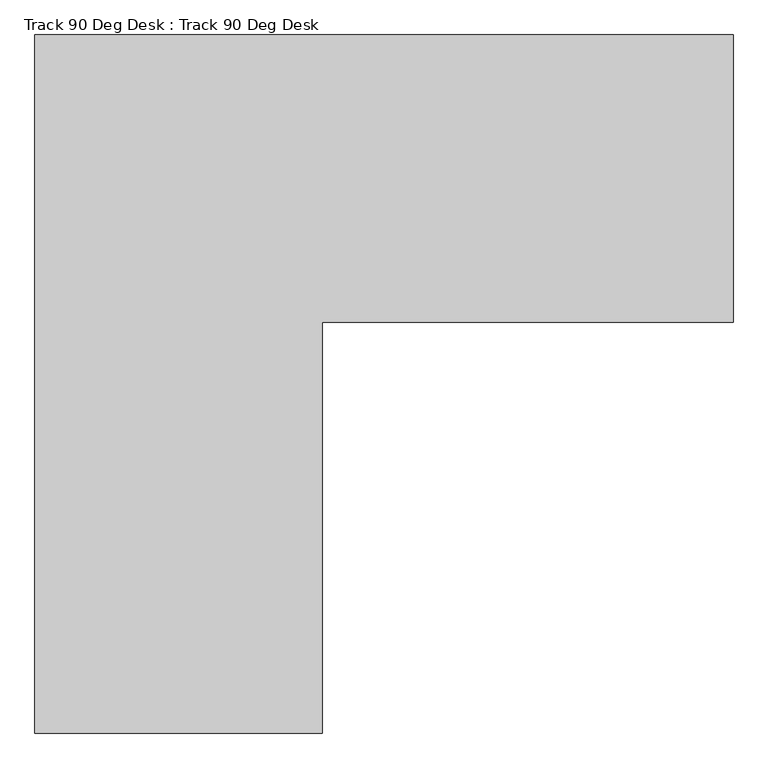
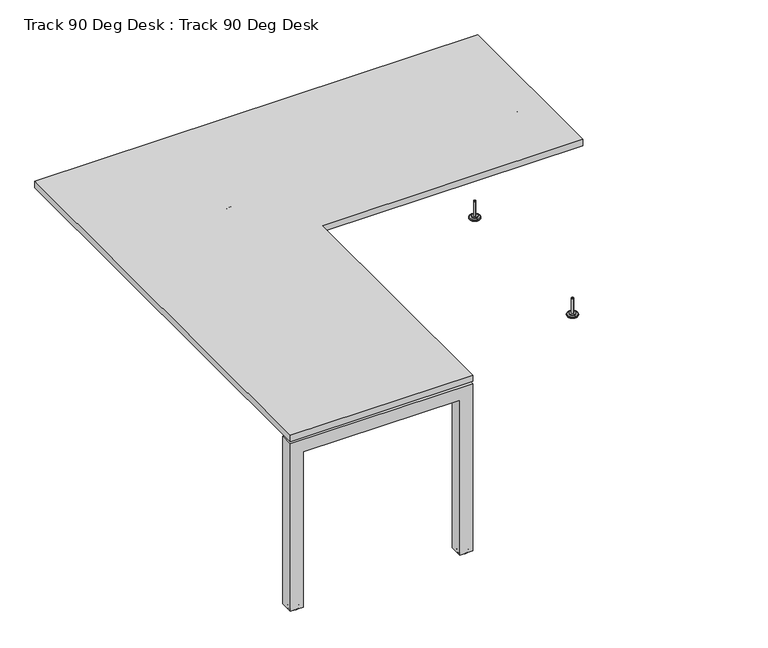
"""IFC4 building model written with IfcOpenShell, lengths in millimetres: furniture geometry, Track 90 Deg Desk : Track 90 Deg Desk."""

from ifc_helpers import new_model, si_unit, point, frame, frame_2d, origin, place, context, project, spatial, polyline, circle_curve, ellipse_curve, trimmed, segment, composite_curve, outline, extrude, source, transform, mapped, element, save
from ifc_brep_helpers import plane_surface, cylinder_surface, revolved_surface, advanced_brep


def track_90_deg_desk_track_90_deg_desk_b40ebd61(model_context):
    return source(origin(), model_context, "Body", "SolidModel", [
        advanced_brep(
        [(1675.0000009, -21.0000093, 70.0000014), (1675.0000009, -21.0000093, 10.0000005), (1675.0000009, -29.0000093, 10.0000005), (1675.0000009, -29.0000093, 70.0000014), (1675.0000009, -14.0359245, 10.0000005), (1675.0000009, -35.9640941, 10.0000005), (1675.0000009, -14.0359245, 6.0), (1675.0000009, -35.9640941, 6.0), (1675.0000009, -6.9540033, 6.0), (1675.0000009, -43.0460152, 6.0), (1675.0000009, -5.0000105, 4.0460071), (1675.0000009, -45.0000081, 4.0460071), (1675.0000009, -5.0000105, 2.0), (1675.0000009, -45.0000081, 2.0), (1675.0000009, -7.0000105, 0.0), (1675.0000009, -43.0000081, 0.0), (1675.0000009, -25.0000093, 0.0), (1675.0000009, -25.0000093, 70.0000014)],
        [
            (0, 1),
            (1, 2, circle_curve(frame((1675.0000009, -25.0000093, 10.0000005), z_axis=(0.0, 0.0, 1.0), x_axis=(0.0, -1.0, 0.0)), 4.0)),
            (2, 3),
            (3, 0, circle_curve(frame((1675.0000009, -25.0000093, 70.0000014), z_axis=(0.0, 0.0, -1.0), x_axis=(0.0, -1.0, 0.0)), 4.0)),
            (2, 1, circle_curve(frame((1675.0000009, -25.0000093, 10.0000005), z_axis=(0.0, 0.0, 1.0), x_axis=(0.0, -1.0, 0.0)), 4.0)),
            (0, 3, circle_curve(frame((1675.0000009, -25.0000093, 70.0000014), z_axis=(0.0, 0.0, -1.0), x_axis=(0.0, -1.0, 0.0)), 4.0)),
            (1, 4),
            (4, 5, circle_curve(frame((1675.0000009, -25.0000093, 10.0000005), z_axis=(0.0, 0.0, 1.0), x_axis=(0.0, -1.0, 0.0)), 10.9640848)),
            (5, 2),
            (5, 4, circle_curve(frame((1675.0000009, -25.0000093, 10.0000005), z_axis=(0.0, 0.0, 1.0), x_axis=(0.0, -1.0, 0.0)), 10.9640848)),
            (4, 6),
            (6, 7, circle_curve(frame((1675.0000009, -25.0000093, 6.0), z_axis=(0.0, 0.0, 1.0), x_axis=(0.0, -1.0, 0.0)), 10.9640848)),
            (7, 5),
            (7, 6, circle_curve(frame((1675.0000009, -25.0000093, 6.0), z_axis=(0.0, 0.0, 1.0), x_axis=(0.0, -1.0, 0.0)), 10.9640848)),
            (6, 8),
            (8, 9, circle_curve(frame((1675.0000009, -25.0000093, 6.0), z_axis=(0.0, 0.0, 1.0), x_axis=(0.0, -1.0, 0.0)), 18.0460059)),
            (9, 7),
            (9, 8, circle_curve(frame((1675.0000009, -25.0000093, 6.0), z_axis=(0.0, 0.0, 1.0), x_axis=(0.0, -1.0, 0.0)), 18.0460059)),
            (8, 10, circle_curve(frame((1675.0000009, -6.9540033, 4.0460071), z_axis=(-1.0, 0.0, 0.0), x_axis=(0.0, -1.0, 0.0)), 1.9539929)),
            (10, 11, circle_curve(frame((1675.0000009, -25.0000093, 4.0460071), z_axis=(0.0, 0.0, 1.0), x_axis=(0.0, -1.0, 0.0)), 19.9999988)),
            (11, 9, circle_curve(frame((1675.0000009, -43.0460152, 4.0460071), z_axis=(-1.0, 0.0, 0.0), x_axis=(0.0, 1.0, 0.0)), 1.9539929)),
            (11, 10, circle_curve(frame((1675.0000009, -25.0000093, 4.0460071), z_axis=(0.0, 0.0, 1.0), x_axis=(0.0, -1.0, 0.0)), 19.9999988)),
            (10, 12),
            (12, 13, circle_curve(frame((1675.0000009, -25.0000093, 2.0), z_axis=(0.0, 0.0, 1.0), x_axis=(0.0, -1.0, 0.0)), 19.9999988)),
            (13, 11),
            (13, 12, circle_curve(frame((1675.0000009, -25.0000093, 2.0), z_axis=(0.0, 0.0, 1.0), x_axis=(0.0, -1.0, 0.0)), 19.9999988)),
            (12, 14, circle_curve(frame((1675.0000009, -7.0000105, 2.0), z_axis=(-1.0, 0.0, 0.0), x_axis=(0.0, -1.0, 0.0)), 2.0)),
            (14, 15, circle_curve(frame((1675.0000009, -25.0000093, 0.0), z_axis=(0.0, 0.0, 1.0), x_axis=(0.0, -1.0, 0.0)), 17.9999988)),
            (15, 13, circle_curve(frame((1675.0000009, -43.0000081, 2.0), z_axis=(-1.0, 0.0, 0.0), x_axis=(0.0, 1.0, 0.0)), 2.0)),
            (15, 14, circle_curve(frame((1675.0000009, -25.0000093, 0.0), z_axis=(0.0, 0.0, 1.0), x_axis=(0.0, -1.0, 0.0)), 17.9999988)),
            (14, 16),
            (16, 15),
            (17, 0),
            (3, 17),
        ],
        [
            cylinder_surface(frame((1675.0000009, -25.0000093, 70.0000014), z_axis=(0.0, 0.0, 1.0), x_axis=(0.0, -1.0, 0.0)), 4.0),
            plane_surface(frame((1675.0000009, -25.0000093, 10.0000005), z_axis=(0.0, 0.0, 1.0), x_axis=(0.0, -1.0, 0.0))),
            cylinder_surface(frame((1675.0000009, -25.0000093, 70.0000014), z_axis=(0.0, 0.0, 1.0), x_axis=(0.0, -1.0, 0.0)), 10.9640848),
            plane_surface(frame((1675.0000009, -25.0000093, 6.0), z_axis=(0.0, 0.0, 1.0), x_axis=(0.0, -1.0, 0.0))),
            revolved_surface(trimmed(ellipse_curve(frame((1675.0000009, -43.0460152, 4.0460071), z_axis=(-1.0, 0.0, 0.0), x_axis=(0.0, 1.0, 0.0)), 1.9539929, 1.9539929), [point((1675.0000009, -45.0000081, 4.0460071))], [point((1675.0000009, -43.0460152, 6.0))], True, "CARTESIAN"), (1675.0000009, -25.0000093, 70.0000014), (0.0, 0.0, 1.0)),
            cylinder_surface(frame((1675.0000009, -25.0000093, 70.0000014), z_axis=(0.0, 0.0, 1.0), x_axis=(0.0, -1.0, 0.0)), 19.9999988),
            revolved_surface(trimmed(ellipse_curve(frame((1675.0000009, -43.0000081, 2.0), z_axis=(-1.0, 0.0, 0.0), x_axis=(0.0, 1.0, 0.0)), 2.0, 2.0), [point((1675.0000009, -43.0000081, 0.0))], [point((1675.0000009, -45.0000081, 2.0))], True, "CARTESIAN"), (1675.0000009, -25.0000093, 70.0000014), (0.0, 0.0, 1.0)),
            plane_surface(frame((1675.0000009, -25.0000093, 0.0), z_axis=(0.0, 0.0, -1.0), x_axis=(0.0, -1.0, 0.0))),
            plane_surface(frame((1675.0000009, -25.0000093, 70.0000014), z_axis=(0.0, 0.0, 1.0), x_axis=(0.0, -1.0, 0.0))),
        ],
        [
            (0, [[1, 2, 3, 4]]),
            (0, [[-3, 5, -1, 6]]),
            (1, [[7, 8, 9, -2]]),
            (1, [[-9, 10, -7, -5]]),
            (2, [[11, 12, 13, -8]]),
            (2, [[-13, 14, -11, -10]]),
            (3, [[15, 16, 17, -12]]),
            (3, [[-17, 18, -15, -14]]),
            (4, [[19, 20, 21, -16]]),
            (4, [[-21, 22, -19, -18]]),
            (5, [[23, 24, 25, -20]]),
            (5, [[-25, 26, -23, -22]]),
            (6, [[27, 28, 29, -24]]),
            (6, [[-29, 30, -27, -26]]),
            (7, [[31, 32, -28]]),
            (7, [[-32, -31, -30]]),
            (8, [[33, -4, 34]]),
            (8, [[-34, -6, -33]]),
        ],
    ),
        advanced_brep(
        [(1675.0000009, -678.9999907, 10.0000005), (1675.0000009, -678.9999907, 70.0000014), (1675.0000009, -670.9999907, 70.0000014), (1675.0000009, -670.9999907, 10.0000005), (1675.0000009, -685.9640755, 10.0000005), (1675.0000009, -664.0359059, 10.0000005), (1675.0000009, -685.9640755, 6.0), (1675.0000009, -664.0359059, 6.0), (1675.0000009, -693.0459967, 6.0), (1675.0000009, -656.9539848, 6.0), (1675.0000009, -694.9999895, 4.0460071), (1675.0000009, -654.9999919, 4.0460071), (1675.0000009, -694.9999895, 2.0), (1675.0000009, -654.9999919, 2.0), (1675.0000009, -692.9999895, 0.0), (1675.0000009, -656.9999919, 0.0), (1675.0000009, -674.9999907, 0.0), (1675.0000009, -674.9999907, 70.0000014)],
        [
            (0, 1),
            (1, 2, circle_curve(frame((1675.0000009, -674.9999907, 70.0000014), z_axis=(0.0, 0.0, -1.0), x_axis=(0.0, 1.0, 0.0)), 4.0)),
            (2, 3),
            (3, 0, circle_curve(frame((1675.0000009, -674.9999907, 10.0000005), z_axis=(0.0, 0.0, 1.0), x_axis=(0.0, 1.0, 0.0)), 4.0)),
            (2, 1, circle_curve(frame((1675.0000009, -674.9999907, 70.0000014), z_axis=(0.0, 0.0, -1.0), x_axis=(0.0, 1.0, 0.0)), 4.0)),
            (0, 3, circle_curve(frame((1675.0000009, -674.9999907, 10.0000005), z_axis=(0.0, 0.0, 1.0), x_axis=(0.0, 1.0, 0.0)), 4.0)),
            (4, 0),
            (3, 5),
            (5, 4, circle_curve(frame((1675.0000009, -674.9999907, 10.0000005), z_axis=(0.0, 0.0, 1.0), x_axis=(0.0, 1.0, 0.0)), 10.9640848)),
            (4, 5, circle_curve(frame((1675.0000009, -674.9999907, 10.0000005), z_axis=(0.0, 0.0, 1.0), x_axis=(0.0, 1.0, 0.0)), 10.9640848)),
            (6, 4),
            (5, 7),
            (7, 6, circle_curve(frame((1675.0000009, -674.9999907, 6.0), z_axis=(0.0, 0.0, 1.0), x_axis=(0.0, 1.0, 0.0)), 10.9640848)),
            (6, 7, circle_curve(frame((1675.0000009, -674.9999907, 6.0), z_axis=(0.0, 0.0, 1.0), x_axis=(0.0, 1.0, 0.0)), 10.9640848)),
            (8, 6),
            (7, 9),
            (9, 8, circle_curve(frame((1675.0000009, -674.9999907, 6.0), z_axis=(0.0, 0.0, 1.0), x_axis=(0.0, 1.0, 0.0)), 18.0460059)),
            (8, 9, circle_curve(frame((1675.0000009, -674.9999907, 6.0), z_axis=(0.0, 0.0, 1.0), x_axis=(0.0, 1.0, 0.0)), 18.0460059)),
            (10, 8, circle_curve(frame((1675.0000009, -693.0459967, 4.0460071), z_axis=(-1.0, 0.0, 0.0), x_axis=(0.0, 1.0, 0.0)), 1.9539929)),
            (9, 11, circle_curve(frame((1675.0000009, -656.9539848, 4.0460071), z_axis=(-1.0, 0.0, 0.0), x_axis=(0.0, -1.0, 0.0)), 1.9539929)),
            (11, 10, circle_curve(frame((1675.0000009, -674.9999907, 4.0460071), z_axis=(0.0, 0.0, 1.0), x_axis=(0.0, 1.0, 0.0)), 19.9999988)),
            (10, 11, circle_curve(frame((1675.0000009, -674.9999907, 4.0460071), z_axis=(0.0, 0.0, 1.0), x_axis=(0.0, 1.0, 0.0)), 19.9999988)),
            (12, 10),
            (11, 13),
            (13, 12, circle_curve(frame((1675.0000009, -674.9999907, 2.0), z_axis=(0.0, 0.0, 1.0), x_axis=(0.0, 1.0, 0.0)), 19.9999988)),
            (12, 13, circle_curve(frame((1675.0000009, -674.9999907, 2.0), z_axis=(0.0, 0.0, 1.0), x_axis=(0.0, 1.0, 0.0)), 19.9999988)),
            (14, 12, circle_curve(frame((1675.0000009, -692.9999895, 2.0), z_axis=(-1.0, 0.0, 0.0), x_axis=(0.0, 1.0, 0.0)), 2.0)),
            (13, 15, circle_curve(frame((1675.0000009, -656.9999919, 2.0), z_axis=(-1.0, 0.0, 0.0), x_axis=(0.0, -1.0, 0.0)), 2.0)),
            (15, 14, circle_curve(frame((1675.0000009, -674.9999907, 0.0), z_axis=(0.0, 0.0, 1.0), x_axis=(0.0, 1.0, 0.0)), 17.9999988)),
            (14, 15, circle_curve(frame((1675.0000009, -674.9999907, 0.0), z_axis=(0.0, 0.0, 1.0), x_axis=(0.0, 1.0, 0.0)), 17.9999988)),
            (16, 14),
            (15, 16),
            (1, 17),
            (17, 2),
        ],
        [
            cylinder_surface(frame((1675.0000009, -674.9999907, 70.0000014), z_axis=(0.0, 0.0, -1.0), x_axis=(0.0, 1.0, 0.0)), 4.0),
            plane_surface(frame((1675.0000009, -674.9999907, 10.0000005), z_axis=(0.0, 0.0, 1.0), x_axis=(0.0, 1.0, 0.0))),
            cylinder_surface(frame((1675.0000009, -674.9999907, 70.0000014), z_axis=(0.0, 0.0, -1.0), x_axis=(0.0, 1.0, 0.0)), 10.9640848),
            plane_surface(frame((1675.0000009, -674.9999907, 6.0), z_axis=(0.0, 0.0, 1.0), x_axis=(0.0, 1.0, 0.0))),
            revolved_surface(trimmed(ellipse_curve(frame((1675.0000009, -656.9539848, 4.0460071), z_axis=(-1.0, 0.0, 0.0), x_axis=(0.0, -1.0, 0.0)), 1.9539929, 1.9539929), [point((1675.0000009, -656.9539848, 6.0))], [point((1675.0000009, -654.9999919, 4.0460071))], True, "CARTESIAN"), (1675.0000009, -674.9999907, 70.0000014), (0.0, 0.0, -1.0)),
            cylinder_surface(frame((1675.0000009, -674.9999907, 70.0000014), z_axis=(0.0, 0.0, -1.0), x_axis=(0.0, 1.0, 0.0)), 19.9999988),
            revolved_surface(trimmed(ellipse_curve(frame((1675.0000009, -656.9999919, 2.0), z_axis=(-1.0, 0.0, 0.0), x_axis=(0.0, -1.0, 0.0)), 2.0, 2.0), [point((1675.0000009, -654.9999919, 2.0))], [point((1675.0000009, -656.9999919, 0.0))], True, "CARTESIAN"), (1675.0000009, -674.9999907, 70.0000014), (0.0, 0.0, -1.0)),
            plane_surface(frame((1675.0000009, -674.9999907, 0.0), z_axis=(0.0, 0.0, -1.0), x_axis=(0.0, 1.0, 0.0))),
            plane_surface(frame((1675.0000009, -674.9999907, 70.0000014), z_axis=(0.0, 0.0, 1.0), x_axis=(0.0, 1.0, 0.0))),
        ],
        [
            (0, [[1, 2, 3, 4]]),
            (0, [[-3, 5, -1, 6]]),
            (1, [[7, -4, 8, 9]]),
            (1, [[-8, -6, -7, 10]]),
            (2, [[11, -9, 12, 13]]),
            (2, [[-12, -10, -11, 14]]),
            (3, [[15, -13, 16, 17]]),
            (3, [[-16, -14, -15, 18]]),
            (4, [[19, -17, 20, 21]]),
            (4, [[-20, -18, -19, 22]]),
            (5, [[23, -21, 24, 25]]),
            (5, [[-24, -22, -23, 26]]),
            (6, [[27, -25, 28, 29]]),
            (6, [[-28, -26, -27, 30]]),
            (7, [[31, -29, 32]]),
            (7, [[-32, -30, -31]]),
            (8, [[33, 34, -2]]),
            (8, [[-34, -33, -5]]),
        ],
    ),
        extrude(outline(polyline([(687.4999489, 1650.8242135), (694.9999998, 1642.8242158), (694.9999998, 1641.9957871), (692.9999765, 1641.9957871), (685.4999983, 1649.9957848), (685.4999983, 1650.8242135), (687.4999489, 1650.8242135)])), frame((0.0, -574.9999809, 0.0), z_axis=(0.0, 1.0, 0.0), x_axis=(0.0, 0.0, 1.0)), (0.0, 0.0, 1.0), 50.0000004),
        extrude(outline(polyline([(1624.9999994, -574.9999809), (1624.9999994, -524.9999805), (1641.9957871, -524.9999805), (1641.9957871, -574.9999809), (1624.9999994, -574.9999809)]), holes=[composite_curve([segment(trimmed(circle_curve(frame_2d((1635.0000022, -564.9999735)), 2.4999928), [point((1637.499995, -564.9999735))], [point((1632.5000095, -564.9999735))], True, "CARTESIAN"), True, "CONTINUOUS"), segment(trimmed(circle_curve(frame_2d((1635.0000022, -564.9999735)), 2.4999928), [point((1632.5000095, -564.9999735))], [point((1637.499995, -564.9999735))], True, "CARTESIAN"), True, "CONTINUOUS")], self_intersect=False), composite_curve([segment(trimmed(circle_curve(frame_2d((1635.0000022, -534.9999878)), 2.4999928), [point((1637.499995, -534.9999878))], [point((1632.5000095, -534.9999878))], True, "CARTESIAN"), True, "CONTINUOUS"), segment(trimmed(circle_curve(frame_2d((1635.0000022, -534.9999878)), 2.4999928), [point((1632.5000095, -534.9999878))], [point((1637.499995, -534.9999878))], True, "CARTESIAN"), True, "CONTINUOUS")], self_intersect=False)]), frame((0.0, 0.0, 692.9999765), z_axis=(0.0, 0.0, 1.0), x_axis=(1.0, 0.0, 0.0)), (0.0, 0.0, 1.0), 2.0000233),
        extrude(outline(polyline([(1650.8242135, -574.9999809), (1650.8242135, -524.9999805), (1674.9999998, -524.9999805), (1674.9999998, -574.9999809), (1650.8242135, -574.9999809)]), holes=[composite_curve([segment(trimmed(circle_curve(frame_2d((1661.5000017, -549.9999807)), 2.9999986), [point((1664.5000003, -549.9999807))], [point((1658.5000031, -549.9999807))], True, "CARTESIAN"), True, "CONTINUOUS"), segment(trimmed(circle_curve(frame_2d((1661.5000017, -549.9999807)), 2.9999986), [point((1658.5000031, -549.9999807))], [point((1664.5000003, -549.9999807))], True, "CARTESIAN"), True, "CONTINUOUS")], self_intersect=False)]), frame((0.0, 0.0, 685.4999983), z_axis=(0.0, 0.0, 1.0), x_axis=(1.0, 0.0, 0.0)), (0.0, 0.0, 1.0), 1.9999506),
        extrude(outline(composite_curve([segment(polyline([(427.9667757, -327.4375236), (530.031154, -327.4375236)]), True, "CONTINUOUS"), segment(trimmed(circle_curve(frame_2d((530.031154, -328.9063713)), 1.4688476), [point((530.031154, -327.4375236))], [point((531.5000017, -328.9063713))], False, "CARTESIAN"), True, "CONTINUOUS"), segment(polyline([(531.5000017, -328.9063713), (531.5000017, -337.4374946), (426.4999972, -337.4374946), (426.4999972, -328.9043021)]), True, "CONTINUOUS"), segment(trimmed(circle_curve(frame_2d((427.9667757, -328.9043021)), 1.4667785), [point((426.4999972, -328.9043021))], [point((427.9667757, -327.4375236))], False, "CARTESIAN"), True, "CONTINUOUS")], self_intersect=False), holes=[composite_curve([segment(trimmed(circle_curve(frame_2d((453.9999993, -332.4375091)), 2.5000018), [point((451.4999974, -332.4375091))], [point((456.5000011, -332.4375091))], True, "CARTESIAN"), True, "CONTINUOUS"), segment(trimmed(circle_curve(frame_2d((453.9999993, -332.4375091)), 2.5000018), [point((456.5000011, -332.4375091))], [point((451.4999974, -332.4375091))], True, "CARTESIAN"), True, "CONTINUOUS")], self_intersect=False), composite_curve([segment(trimmed(circle_curve(frame_2d((503.9999996, -332.4375091)), 2.5000018), [point((501.4999978, -332.4375091))], [point((506.5000015, -332.4375091))], True, "CARTESIAN"), True, "CONTINUOUS"), segment(trimmed(circle_curve(frame_2d((503.9999996, -332.4375091)), 2.5000018), [point((506.5000015, -332.4375091))], [point((501.4999978, -332.4375091))], True, "CARTESIAN"), True, "CONTINUOUS")], self_intersect=False)]), frame((0.0, 0.0, 692.5000071), z_axis=(0.0, 0.0, 1.0), x_axis=(1.0, 0.0, 0.0)), (0.0, 0.0, 1.0), 2.4999928),
        extrude(outline(composite_curve([segment(trimmed(circle_curve(frame_2d((427.9667757, -371.0956797)), 1.4667785), [point((427.9667757, -372.5624582))], [point((426.4999972, -371.0956797))], False, "CARTESIAN"), True, "CONTINUOUS"), segment(polyline([(426.4999972, -371.0956797), (426.4999972, -362.5624872), (531.5000017, -362.5624872), (531.5000017, -371.0936106)]), True, "CONTINUOUS"), segment(trimmed(circle_curve(frame_2d((530.031154, -371.0936106)), 1.4688476), [point((531.5000017, -371.0936106))], [point((530.031154, -372.5624582))], False, "CARTESIAN"), True, "CONTINUOUS"), segment(polyline([(530.031154, -372.5624582), (427.9667757, -372.5624582)]), True, "CONTINUOUS")], self_intersect=False), holes=[composite_curve([segment(trimmed(circle_curve(frame_2d((453.9999993, -367.5624727)), 2.5000018), [point((451.4999974, -367.5624727))], [point((456.5000011, -367.5624727))], True, "CARTESIAN"), True, "CONTINUOUS"), segment(trimmed(circle_curve(frame_2d((453.9999993, -367.5624727)), 2.5000018), [point((456.5000011, -367.5624727))], [point((451.4999974, -367.5624727))], True, "CARTESIAN"), True, "CONTINUOUS")], self_intersect=False), composite_curve([segment(trimmed(circle_curve(frame_2d((503.9999996, -367.5624727)), 2.5000018), [point((501.4999978, -367.5624727))], [point((506.5000015, -367.5624727))], True, "CARTESIAN"), True, "CONTINUOUS"), segment(trimmed(circle_curve(frame_2d((503.9999996, -367.5624727)), 2.5000018), [point((506.5000015, -367.5624727))], [point((501.4999978, -367.5624727))], True, "CARTESIAN"), True, "CONTINUOUS")], self_intersect=False)]), frame((0.0, 0.0, 692.5000071), z_axis=(0.0, 0.0, 1.0), x_axis=(1.0, 0.0, 0.0)), (0.0, 0.0, 1.0), 2.4999928),
        extrude(outline(composite_curve([segment(polyline([(-337.4374946, 644.9999994), (-337.4374946, 645.9999994), (-336.174127, 645.9999994), (-336.174127, 644.2418639)]), True, "CONTINUOUS"), segment(trimmed(circle_curve(frame_2d((-336.674127, 644.2418639)), 0.5), [point((-336.174127, 644.2418639))], [point((-336.674127, 643.7418639))], False, "CARTESIAN"), True, "CONTINUOUS"), segment(polyline([(-336.674127, 643.7418639), (-363.32506, 643.7418639)]), True, "CONTINUOUS"), segment(trimmed(circle_curve(frame_2d((-363.32506, 644.2426588)), 0.5007949), [point((-363.32506, 643.7418639))], [point((-363.8258548, 644.2426588))], False, "CARTESIAN"), True, "CONTINUOUS"), segment(polyline([(-363.8258548, 644.2426588), (-363.8258548, 645.9999994), (-362.5624872, 645.9999994), (-362.5624872, 644.9999994), (-337.4374946, 644.9999994)]), True, "CONTINUOUS")], self_intersect=False)), frame((428.9999991, 0.0, 0.0), z_axis=(1.0, 0.0, 0.0), x_axis=(0.0, 1.0, 0.0)), (0.0, 0.0, 1.0), 102.5000026),
        extrude(outline(polyline([(645.9999994, 531.5000017), (692.5000071, 531.5000017), (692.5000071, 426.4999972), (687.999991, 426.4999972), (687.999991, 428.9999991), (645.9999994, 428.9999991), (645.9999994, 531.5000017)]), holes=[composite_curve([segment(trimmed(circle_curve(frame_2d((668.1207902, 446.4999938)), 2.9999986), [point((668.1207902, 443.4999952))], [point((668.1207902, 449.4999923))], True, "CARTESIAN"), True, "CONTINUOUS"), segment(trimmed(circle_curve(frame_2d((668.1207902, 446.4999938)), 2.9999986), [point((668.1207902, 449.4999923))], [point((668.1207902, 443.4999952))], True, "CARTESIAN"), True, "CONTINUOUS")], self_intersect=False), composite_curve([segment(trimmed(circle_curve(frame_2d((668.1207902, 472.4940813)), 2.9999986), [point((668.1207902, 469.4940827))], [point((668.1207902, 475.4940798))], True, "CARTESIAN"), True, "CONTINUOUS"), segment(trimmed(circle_curve(frame_2d((668.1207902, 472.4940813)), 2.9999986), [point((668.1207902, 475.4940798))], [point((668.1207902, 469.4940827))], True, "CARTESIAN"), True, "CONTINUOUS")], self_intersect=False), composite_curve([segment(trimmed(circle_curve(frame_2d((668.1207902, 498.4881688)), 2.9999986), [point((668.1207902, 501.4881674))], [point((668.1207902, 495.4881702))], True, "CARTESIAN"), True, "CONTINUOUS"), segment(trimmed(circle_curve(frame_2d((668.1207902, 498.4881688)), 2.9999986), [point((668.1207902, 495.4881702))], [point((668.1207902, 501.4881674))], True, "CARTESIAN"), True, "CONTINUOUS")], self_intersect=False), composite_curve([segment(trimmed(circle_curve(frame_2d((668.1207902, 524.4822563)), 2.9999986), [point((668.1207902, 527.4822549))], [point((668.1207902, 521.4822577))], True, "CARTESIAN"), True, "CONTINUOUS"), segment(trimmed(circle_curve(frame_2d((668.1207902, 524.4822563)), 2.9999986), [point((668.1207902, 521.4822577))], [point((668.1207902, 527.4822549))], True, "CARTESIAN"), True, "CONTINUOUS")], self_intersect=False)]), frame((0.0, -337.4374946, 0.0), z_axis=(0.0, 1.0, 0.0), x_axis=(0.0, 0.0, 1.0)), (0.0, 0.0, 1.0), 1.2633677),
        extrude(outline(composite_curve([segment(polyline([(408.5175067, -324.9999544), (426.4999972, -324.9999544), (426.4999972, -374.9999548), (408.5285826, -374.9999548)]), True, "CONTINUOUS"), segment(trimmed(circle_curve(frame_2d((408.5285826, -372.9713684)), 2.0285864), [point((408.5285826, -374.9999548))], [point((406.4999962, -372.9713684))], False, "CARTESIAN"), True, "CONTINUOUS"), segment(polyline([(406.4999962, -372.9713684), (406.4999962, -327.0174649)]), True, "CONTINUOUS"), segment(trimmed(circle_curve(frame_2d((408.5175067, -327.0174649)), 2.0175105), [point((406.4999962, -327.0174649))], [point((408.5175067, -324.9999544))], False, "CARTESIAN"), True, "CONTINUOUS")], self_intersect=False), holes=[composite_curve([segment(trimmed(circle_curve(frame_2d((414.9999951, -349.9999546)), 3.2500196), [point((411.7499755, -349.9999546))], [point((418.2500148, -349.9999546))], True, "CARTESIAN"), True, "CONTINUOUS"), segment(trimmed(circle_curve(frame_2d((414.9999951, -349.9999546)), 3.2500196), [point((418.2500148, -349.9999546))], [point((411.7499755, -349.9999546))], True, "CARTESIAN"), True, "CONTINUOUS")], self_intersect=False)]), frame((0.0, 0.0, 633.0000051), z_axis=(0.0, 0.0, 1.0), x_axis=(1.0, 0.0, 0.0)), (0.0, 0.0, 1.0), 2.4999928),
        extrude(outline(composite_curve([segment(polyline([(408.5175067, -324.9999544), (426.4999972, -324.9999544), (426.4999972, -374.9999548), (408.5285826, -374.9999548)]), True, "CONTINUOUS"), segment(trimmed(circle_curve(frame_2d((408.5285826, -372.9713684)), 2.0285864), [point((408.5285826, -374.9999548))], [point((406.4999962, -372.9713684))], False, "CARTESIAN"), True, "CONTINUOUS"), segment(polyline([(406.4999962, -372.9713684), (406.4999962, -327.0174649)]), True, "CONTINUOUS"), segment(trimmed(circle_curve(frame_2d((408.5175067, -327.0174649)), 2.0175105), [point((406.4999962, -327.0174649))], [point((408.5175067, -324.9999544))], False, "CARTESIAN"), True, "CONTINUOUS")], self_intersect=False), holes=[composite_curve([segment(trimmed(circle_curve(frame_2d((414.9999951, -349.9999546)), 3.2500196), [point((411.7499755, -349.9999546))], [point((418.2500148, -349.9999546))], True, "CARTESIAN"), True, "CONTINUOUS"), segment(trimmed(circle_curve(frame_2d((414.9999951, -349.9999546)), 3.2500196), [point((418.2500148, -349.9999546))], [point((411.7499755, -349.9999546))], True, "CARTESIAN"), True, "CONTINUOUS")], self_intersect=False)]), frame((0.0, 0.0, 685.4999983), z_axis=(0.0, 0.0, 1.0), x_axis=(1.0, 0.0, 0.0)), (0.0, 0.0, 1.0), 2.4999928),
        extrude(outline(composite_curve([segment(polyline([(687.999991, 426.4999972), (633.0000051, 426.4999972), (633.0000051, 428.4585698)]), True, "CONTINUOUS"), segment(trimmed(circle_curve(frame_2d((633.5414345, 428.4585698)), 0.5414293), [point((633.0000051, 428.4585698))], [point((633.5414345, 428.9999991))], False, "CARTESIAN"), True, "CONTINUOUS"), segment(polyline([(633.5414345, 428.9999991), (687.499991, 428.9999991)]), True, "CONTINUOUS"), segment(trimmed(circle_curve(frame_2d((687.499991, 428.4999991)), 0.5), [point((687.499991, 428.9999991))], [point((687.999991, 428.4999991))], False, "CARTESIAN"), True, "CONTINUOUS"), segment(polyline([(687.999991, 428.4999991), (687.999991, 426.4999972)]), True, "CONTINUOUS")], self_intersect=False)), frame((0.0, -374.9999548, 0.0), z_axis=(0.0, 1.0, 0.0), x_axis=(0.0, 0.0, 1.0)), (0.0, 0.0, 1.0), 50.0000004),
        extrude(outline(polyline([(645.9999994, 531.5000017), (692.5000071, 531.5000017), (692.5000071, 426.4999972), (687.999991, 426.4999972), (687.999991, 428.9999991), (645.9999994, 428.9999991), (645.9999994, 531.5000017)]), holes=[composite_curve([segment(trimmed(circle_curve(frame_2d((668.1207902, 446.4999938)), 2.9999986), [point((668.1207902, 443.4999952))], [point((668.1207902, 449.4999923))], True, "CARTESIAN"), True, "CONTINUOUS"), segment(trimmed(circle_curve(frame_2d((668.1207902, 446.4999938)), 2.9999986), [point((668.1207902, 449.4999923))], [point((668.1207902, 443.4999952))], True, "CARTESIAN"), True, "CONTINUOUS")], self_intersect=False), composite_curve([segment(trimmed(circle_curve(frame_2d((668.1207902, 472.4940813)), 2.9999986), [point((668.1207902, 469.4940827))], [point((668.1207902, 475.4940798))], True, "CARTESIAN"), True, "CONTINUOUS"), segment(trimmed(circle_curve(frame_2d((668.1207902, 472.4940813)), 2.9999986), [point((668.1207902, 475.4940798))], [point((668.1207902, 469.4940827))], True, "CARTESIAN"), True, "CONTINUOUS")], self_intersect=False), composite_curve([segment(trimmed(circle_curve(frame_2d((668.1207902, 498.4881688)), 2.9999986), [point((668.1207902, 501.4881674))], [point((668.1207902, 495.4881702))], True, "CARTESIAN"), True, "CONTINUOUS"), segment(trimmed(circle_curve(frame_2d((668.1207902, 498.4881688)), 2.9999986), [point((668.1207902, 495.4881702))], [point((668.1207902, 501.4881674))], True, "CARTESIAN"), True, "CONTINUOUS")], self_intersect=False), composite_curve([segment(trimmed(circle_curve(frame_2d((668.1207902, 524.4822563)), 2.9999986), [point((668.1207902, 527.4822549))], [point((668.1207902, 521.4822577))], True, "CARTESIAN"), True, "CONTINUOUS"), segment(trimmed(circle_curve(frame_2d((668.1207902, 524.4822563)), 2.9999986), [point((668.1207902, 521.4822577))], [point((668.1207902, 527.4822549))], True, "CARTESIAN"), True, "CONTINUOUS")], self_intersect=False)]), frame((0.0, -363.8258548, 0.0), z_axis=(0.0, 1.0, 0.0), x_axis=(0.0, 0.0, 1.0)), (0.0, 0.0, 1.0), 1.2633677),
        advanced_brep(
        [(50.0000004, -1700.0, 5.4999998), (0.0, -1700.0, 5.4999998), (0.0, -1649.9999996, 5.4999998), (50.0000004, -1649.9999996, 5.4999998), (48.0000498, -1698.0, 5.4999998), (48.0000498, -1652.0000002, 5.4999998), (2.0000233, -1652.0000002, 5.4999998), (2.0000233, -1698.0, 5.4999998), (649.9999996, -1700.0, 5.4999998), (649.9999996, -1649.9999996, 5.4999998), (700.0, -1649.9999996, 5.4999998), (700.0, -1700.0, 5.4999998), (651.9999502, -1698.0, 5.4999998), (697.9999767, -1698.0, 5.4999998), (697.9999767, -1652.0000002, 5.4999998), (651.9999502, -1652.0000002, 5.4999998), (50.0000004, -1700.0, 635.4999996), (649.9999996, -1700.0, 635.4999996), (700.0, -1700.0, 685.5), (0.0, -1700.0, 685.5), (0.0, -1649.9999996, 685.5), (700.0, -1649.9999996, 685.5), (649.9999996, -1649.9999996, 635.4999996), (50.0000004, -1649.9999996, 635.4999996), (48.0000498, -1698.0, 15.4999998), (48.0000498, -1652.0000002, 15.4999998), (48.0000498, -1698.0, 637.4999502), (48.0000498, -1652.0000002, 637.4999502), (48.0000498, -1652.0000002, 18.4999995), (48.0000498, -1698.0, 18.4999995), (2.0000233, -1652.0000002, 15.4999998), (697.9999767, -1652.0000002, 15.4999998), (651.9999502, -1652.0000002, 15.4999998), (651.9999502, -1652.0000002, 637.4999502), (651.9999502, -1652.0000002, 18.4999995), (697.9999767, -1652.0000002, 18.4999995), (697.9999767, -1652.0000002, 683.4999767), (2.0000233, -1652.0000002, 683.4999767), (2.0000233, -1652.0000002, 18.4999995), (2.0000233, -1698.0, 15.4999998), (2.0000233, -1698.0, 683.4999767), (2.0000233, -1698.0, 18.4999995), (651.9999502, -1698.0, 15.4999998), (697.9999767, -1698.0, 15.4999998), (697.9999767, -1698.0, 683.4999767), (697.9999767, -1698.0, 18.4999995), (651.9999502, -1698.0, 18.4999995), (651.9999502, -1698.0, 637.4999502), (25.0000093, -1680.5000002, 18.4999995), (25.0000093, -1669.4999994, 18.4999995), (25.0000093, -1680.5000002, 15.4999998), (25.0000093, -1669.4999994, 15.4999998), (674.9999907, -1680.5000002, 18.4999995), (674.9999907, -1669.4999994, 18.4999995), (674.9999907, -1680.5000002, 15.4999998), (674.9999907, -1669.4999994, 15.4999998)],
        [
            (0, 1),
            (1, 2),
            (2, 3),
            (3, 0),
            (4, 5),
            (5, 6),
            (6, 7),
            (7, 4),
            (8, 9),
            (9, 10),
            (10, 11),
            (11, 8),
            (12, 13),
            (13, 14),
            (14, 15),
            (15, 12),
            (0, 16),
            (16, 17),
            (17, 8),
            (11, 18),
            (18, 19),
            (19, 1),
            (19, 20),
            (20, 2),
            (20, 21),
            (21, 10),
            (9, 22),
            (22, 23),
            (23, 3),
            (23, 16),
            (4, 24),
            (24, 25),
            (25, 5),
            (26, 27),
            (27, 28),
            (28, 29),
            (29, 26),
            (25, 30),
            (30, 6),
            (14, 31),
            (31, 32),
            (32, 15),
            (27, 33),
            (33, 34),
            (34, 35),
            (35, 36),
            (36, 37),
            (37, 38),
            (38, 28),
            (30, 39),
            (39, 7),
            (37, 40),
            (40, 41),
            (41, 38),
            (39, 24),
            (12, 42),
            (42, 43),
            (43, 13),
            (40, 44),
            (44, 45),
            (45, 46),
            (46, 47),
            (47, 26),
            (29, 41),
            (18, 21),
            (22, 17),
            (47, 33),
            (36, 44),
            (32, 42),
            (46, 34),
            (43, 31),
            (35, 45),
            (48, 49, circle_curve(frame((25.0000093, -1674.9999998, 18.4999995), z_axis=(0.0, 0.0, -1.0), x_axis=(0.0, 1.0, 0.0)), 5.5000004)),
            (49, 48, circle_curve(frame((25.0000093, -1674.9999998, 18.4999995), z_axis=(0.0, 0.0, -1.0), x_axis=(0.0, 1.0, 0.0)), 5.5000004)),
            (50, 51, circle_curve(frame((25.0000093, -1674.9999998, 15.4999998), z_axis=(0.0, 0.0, 1.0), x_axis=(0.0, 1.0, 0.0)), 5.5000004)),
            (51, 50, circle_curve(frame((25.0000093, -1674.9999998, 15.4999998), z_axis=(0.0, 0.0, 1.0), x_axis=(0.0, 1.0, 0.0)), 5.5000004)),
            (49, 51),
            (50, 48),
            (52, 53, circle_curve(frame((674.9999907, -1674.9999998, 18.4999995), z_axis=(0.0, 0.0, -1.0), x_axis=(0.0, 1.0, 0.0)), 5.5000004)),
            (53, 52, circle_curve(frame((674.9999907, -1674.9999998, 18.4999995), z_axis=(0.0, 0.0, -1.0), x_axis=(0.0, 1.0, 0.0)), 5.5000004)),
            (54, 55, circle_curve(frame((674.9999907, -1674.9999998, 15.4999998), z_axis=(0.0, 0.0, 1.0), x_axis=(0.0, 1.0, 0.0)), 5.5000004)),
            (55, 54, circle_curve(frame((674.9999907, -1674.9999998, 15.4999998), z_axis=(0.0, 0.0, 1.0), x_axis=(0.0, 1.0, 0.0)), 5.5000004)),
            (52, 54),
            (55, 53),
        ],
        [
            plane_surface(frame((0.0, -1674.9999998, 5.4999998), z_axis=(0.0, 0.0, -1.0), x_axis=(0.0, 1.0, 0.0))),
            plane_surface(frame((700.0, -1674.9999998, 5.4999998), z_axis=(0.0, 0.0, -1.0), x_axis=(0.0, 1.0, 0.0))),
            plane_surface(frame((50.0000004, -1700.0, 5.4999998), z_axis=(0.0, -1.0, 0.0), x_axis=(0.0, 0.0, 1.0))),
            plane_surface(frame((0.0, -1700.0, 5.4999998), z_axis=(-1.0, 0.0, 0.0), x_axis=(0.0, 0.0, 1.0))),
            plane_surface(frame((0.0, -1649.9999996, 5.4999998), z_axis=(0.0, 1.0, 0.0), x_axis=(0.0, 0.0, 1.0))),
            plane_surface(frame((50.0000004, -1649.9999996, 5.4999998), z_axis=(1.0, 0.0, 0.0), x_axis=(0.0, 0.0, 1.0))),
            plane_surface(frame((48.0000498, -1698.0, 5.4999998), z_axis=(-1.0, 0.0, 0.0), x_axis=(0.0, 0.0, 1.0))),
            plane_surface(frame((48.0000498, -1652.0000002, 5.4999998), z_axis=(0.0, -1.0, 0.0), x_axis=(0.0, 0.0, 1.0))),
            plane_surface(frame((2.0000233, -1652.0000002, 5.4999998), z_axis=(1.0, 0.0, 0.0), x_axis=(0.0, 0.0, 1.0))),
            plane_surface(frame((2.0000233, -1698.0, 5.4999998), z_axis=(0.0, 1.0, 0.0), x_axis=(0.0, 0.0, 1.0))),
            plane_surface(frame((0.0, -1700.0, 685.5), z_axis=(0.0, 0.0, 1.0), x_axis=(1.0, 0.0, 0.0))),
            plane_surface(frame((50.0000004, -1649.9999996, 635.4999996), z_axis=(0.0, 0.0, -1.0), x_axis=(1.0, 0.0, 0.0))),
            plane_surface(frame((48.0000498, -1698.0, 637.4999502), z_axis=(0.0, 0.0, 1.0), x_axis=(1.0, 0.0, 0.0))),
            plane_surface(frame((2.0000233, -1652.0000002, 683.4999767), z_axis=(0.0, 0.0, -1.0), x_axis=(1.0, 0.0, 0.0))),
            plane_surface(frame((700.0, -1700.0, 685.5), z_axis=(1.0, 0.0, 0.0), x_axis=(0.0, 0.0, -1.0))),
            plane_surface(frame((649.9999996, -1649.9999996, 635.4999996), z_axis=(-1.0, 0.0, 0.0), x_axis=(0.0, 0.0, -1.0))),
            plane_surface(frame((651.9999502, -1698.0, 637.4999502), z_axis=(1.0, 0.0, 0.0), x_axis=(0.0, 0.0, -1.0))),
            plane_surface(frame((697.9999767, -1652.0000002, 683.4999767), z_axis=(-1.0, 0.0, 0.0), x_axis=(0.0, 0.0, -1.0))),
            plane_surface(frame((48.0000498, -1652.0000002, 18.4999995), z_axis=(0.0, 0.0, 1.0), x_axis=(-1.0, 0.0, 0.0))),
            plane_surface(frame((48.0000498, -1652.0000002, 15.4999998), z_axis=(0.0, 0.0, -1.0), x_axis=(1.0, 0.0, 0.0))),
            revolved_surface(polyline([(25.0000093, -1669.4999994, 15.4999998), (25.0000093, -1669.4999994, 18.4999995)]), (25.0000093, -1674.9999998, 0.0), (0.0, 0.0, -1.0)),
            plane_surface(frame((651.9999502, -1698.0, 18.4999995), z_axis=(0.0, 0.0, 1.0), x_axis=(0.0, -1.0, 0.0))),
            plane_surface(frame((651.9999502, -1698.0, 15.4999998), z_axis=(0.0, 0.0, -1.0), x_axis=(0.0, 1.0, 0.0))),
            revolved_surface(polyline([(674.9999907, -1669.4999994, 15.4999998), (674.9999907, -1669.4999994, 18.4999995)]), (674.9999907, -1674.9999998, 0.0), (0.0, 0.0, -1.0)),
        ],
        [
            (0, [[1, 2, 3, 4], [5, 6, 7, 8]]),
            (1, [[9, 10, 11, 12], [13, 14, 15, 16]]),
            (2, [[-1, 17, 18, 19, -12, 20, 21, 22]]),
            (3, [[-2, -22, 23, 24]]),
            (4, [[-3, -24, 25, 26, -10, 27, 28, 29]]),
            (5, [[-4, -29, 30, -17]]),
            (6, [[-5, 31, 32, 33]]),
            (6, [[34, 35, 36, 37]]),
            (7, [[-6, -33, 38, 39]]),
            (7, [[-15, 40, 41, 42]]),
            (7, [[43, 44, 45, 46, 47, 48, 49, -35]]),
            (8, [[-7, -39, 50, 51]]),
            (8, [[52, 53, 54, -48]]),
            (9, [[-8, -51, 55, -31]]),
            (9, [[-13, 56, 57, 58]]),
            (9, [[59, 60, 61, 62, 63, -37, 64, -53]]),
            (10, [[-21, 65, -25, -23]]),
            (11, [[-18, -30, -28, 66]]),
            (12, [[-34, -63, 67, -43]]),
            (13, [[-47, 68, -59, -52]]),
            (14, [[-11, -26, -65, -20]]),
            (15, [[-9, -19, -66, -27]]),
            (16, [[-16, -42, 69, -56]]),
            (16, [[-67, -62, 70, -44]]),
            (17, [[-14, -58, 71, -40]]),
            (17, [[-68, -46, 72, -60]]),
            (18, [[-36, -49, -54, -64], [73, 74]]),
            (19, [[-32, -55, -50, -38], [75, 76]]),
            (20, [[-74, 77, -75, 78]]),
            (20, [[-73, -78, -76, -77]]),
            (21, [[-45, -70, -61, -72], [79, 80]]),
            (22, [[-41, -71, -57, -69], [81, 82]]),
            (23, [[-79, 83, -82, 84]]),
            (23, [[-80, -84, -81, -83]]),
        ],
    ),
        advanced_brep(
        [(21.0000093, -1675.0000009, 70.0000014), (29.0000093, -1675.0000009, 70.0000014), (29.0000093, -1675.0000009, 10.0000005), (21.0000093, -1675.0000009, 10.0000005), (35.9640941, -1675.0000009, 10.0000005), (14.0359245, -1675.0000009, 10.0000005), (35.9640941, -1675.0000009, 6.0), (14.0359245, -1675.0000009, 6.0), (43.0460152, -1675.0000009, 6.0), (6.9540033, -1675.0000009, 6.0), (45.0000081, -1675.0000009, 4.0460071), (5.0000105, -1675.0000009, 4.0460071), (45.0000081, -1675.0000009, 2.0), (5.0000105, -1675.0000009, 2.0), (43.0000081, -1675.0000009, 0.0), (7.0000105, -1675.0000009, 0.0), (25.0000093, -1675.0000009, 0.0), (25.0000093, -1675.0000009, 70.0000014)],
        [
            (0, 1, circle_curve(frame((25.0000093, -1675.0000009, 70.0000014), z_axis=(0.0, 0.0, -1.0), x_axis=(1.0, 0.0, 0.0)), 4.0)),
            (1, 2),
            (2, 3, circle_curve(frame((25.0000093, -1675.0000009, 10.0000005), z_axis=(0.0, 0.0, 1.0), x_axis=(1.0, 0.0, 0.0)), 4.0)),
            (3, 0),
            (1, 0, circle_curve(frame((25.0000093, -1675.0000009, 70.0000014), z_axis=(0.0, 0.0, -1.0), x_axis=(1.0, 0.0, 0.0)), 4.0)),
            (3, 2, circle_curve(frame((25.0000093, -1675.0000009, 10.0000005), z_axis=(0.0, 0.0, 1.0), x_axis=(1.0, 0.0, 0.0)), 4.0)),
            (2, 4),
            (4, 5, circle_curve(frame((25.0000093, -1675.0000009, 10.0000005), z_axis=(0.0, 0.0, 1.0), x_axis=(1.0, 0.0, 0.0)), 10.9640848)),
            (5, 3),
            (5, 4, circle_curve(frame((25.0000093, -1675.0000009, 10.0000005), z_axis=(0.0, 0.0, 1.0), x_axis=(1.0, 0.0, 0.0)), 10.9640848)),
            (4, 6),
            (6, 7, circle_curve(frame((25.0000093, -1675.0000009, 6.0), z_axis=(0.0, 0.0, 1.0), x_axis=(1.0, 0.0, 0.0)), 10.9640848)),
            (7, 5),
            (7, 6, circle_curve(frame((25.0000093, -1675.0000009, 6.0), z_axis=(0.0, 0.0, 1.0), x_axis=(1.0, 0.0, 0.0)), 10.9640848)),
            (6, 8),
            (8, 9, circle_curve(frame((25.0000093, -1675.0000009, 6.0), z_axis=(0.0, 0.0, 1.0), x_axis=(1.0, 0.0, 0.0)), 18.0460059)),
            (9, 7),
            (9, 8, circle_curve(frame((25.0000093, -1675.0000009, 6.0), z_axis=(0.0, 0.0, 1.0), x_axis=(1.0, 0.0, 0.0)), 18.0460059)),
            (8, 10, circle_curve(frame((43.0460152, -1675.0000009, 4.0460071), z_axis=(0.0, 1.0, 0.0), x_axis=(-1.0, 0.0, 0.0)), 1.9539929)),
            (10, 11, circle_curve(frame((25.0000093, -1675.0000009, 4.0460071), z_axis=(0.0, 0.0, 1.0), x_axis=(1.0, 0.0, 0.0)), 19.9999988)),
            (11, 9, circle_curve(frame((6.9540033, -1675.0000009, 4.0460071), z_axis=(0.0, 1.0, 0.0), x_axis=(1.0, 0.0, 0.0)), 1.9539929)),
            (11, 10, circle_curve(frame((25.0000093, -1675.0000009, 4.0460071), z_axis=(0.0, 0.0, 1.0), x_axis=(1.0, 0.0, 0.0)), 19.9999988)),
            (10, 12),
            (12, 13, circle_curve(frame((25.0000093, -1675.0000009, 2.0), z_axis=(0.0, 0.0, 1.0), x_axis=(1.0, 0.0, 0.0)), 19.9999988)),
            (13, 11),
            (13, 12, circle_curve(frame((25.0000093, -1675.0000009, 2.0), z_axis=(0.0, 0.0, 1.0), x_axis=(1.0, 0.0, 0.0)), 19.9999988)),
            (12, 14, circle_curve(frame((43.0000081, -1675.0000009, 2.0), z_axis=(0.0, 1.0, 0.0), x_axis=(-1.0, 0.0, 0.0)), 2.0)),
            (14, 15, circle_curve(frame((25.0000093, -1675.0000009, 0.0), z_axis=(0.0, 0.0, 1.0), x_axis=(1.0, 0.0, 0.0)), 17.9999988)),
            (15, 13, circle_curve(frame((7.0000105, -1675.0000009, 2.0), z_axis=(0.0, 1.0, 0.0), x_axis=(1.0, 0.0, 0.0)), 2.0)),
            (15, 14, circle_curve(frame((25.0000093, -1675.0000009, 0.0), z_axis=(0.0, 0.0, 1.0), x_axis=(1.0, 0.0, 0.0)), 17.9999988)),
            (14, 16),
            (16, 15),
            (17, 1),
            (0, 17),
        ],
        [
            cylinder_surface(frame((25.0000093, -1675.0000009, 70.0000014), z_axis=(0.0, 0.0, 1.0), x_axis=(1.0, 0.0, 0.0)), 4.0),
            plane_surface(frame((25.0000093, -1675.0000009, 10.0000005), z_axis=(0.0, 0.0, 1.0), x_axis=(1.0, 0.0, 0.0))),
            cylinder_surface(frame((25.0000093, -1675.0000009, 70.0000014), z_axis=(0.0, 0.0, 1.0), x_axis=(1.0, 0.0, 0.0)), 10.9640848),
            plane_surface(frame((25.0000093, -1675.0000009, 6.0), z_axis=(0.0, 0.0, 1.0), x_axis=(1.0, 0.0, 0.0))),
            revolved_surface(trimmed(ellipse_curve(frame((43.0460152, -1675.0000009, 4.0460071), z_axis=(0.0, -1.0, 0.0), x_axis=(-1.0, 0.0, 0.0)), 1.9539929, 1.9539929), [point((45.0000081, -1675.0000009, 4.0460071))], [point((43.0460152, -1675.0000009, 6.0))], True, "CARTESIAN"), (25.0000093, -1675.0000009, 70.0000014), (0.0, 0.0, 1.0)),
            cylinder_surface(frame((25.0000093, -1675.0000009, 70.0000014), z_axis=(0.0, 0.0, 1.0), x_axis=(1.0, 0.0, 0.0)), 19.9999988),
            revolved_surface(trimmed(ellipse_curve(frame((43.0000081, -1675.0000009, 2.0), z_axis=(0.0, -1.0, 0.0), x_axis=(-1.0, 0.0, 0.0)), 2.0, 2.0), [point((43.0000081, -1675.0000009, 0.0))], [point((45.0000081, -1675.0000009, 2.0))], True, "CARTESIAN"), (25.0000093, -1675.0000009, 70.0000014), (0.0, 0.0, 1.0)),
            plane_surface(frame((25.0000093, -1675.0000009, 0.0), z_axis=(0.0, 0.0, -1.0), x_axis=(1.0, 0.0, 0.0))),
            plane_surface(frame((25.0000093, -1675.0000009, 70.0000014), z_axis=(0.0, 0.0, 1.0), x_axis=(1.0, 0.0, 0.0))),
        ],
        [
            (0, [[1, 2, 3, 4]]),
            (0, [[5, -4, 6, -2]]),
            (1, [[-3, 7, 8, 9]]),
            (1, [[-6, -9, 10, -7]]),
            (2, [[-8, 11, 12, 13]]),
            (2, [[-10, -13, 14, -11]]),
            (3, [[-12, 15, 16, 17]]),
            (3, [[-14, -17, 18, -15]]),
            (4, [[-16, 19, 20, 21]]),
            (4, [[-18, -21, 22, -19]]),
            (5, [[-20, 23, 24, 25]]),
            (5, [[-22, -25, 26, -23]]),
            (6, [[-24, 27, 28, 29]]),
            (6, [[-26, -29, 30, -27]]),
            (7, [[-28, 31, 32]]),
            (7, [[-30, -32, -31]]),
            (8, [[33, -1, 34]]),
            (8, [[-34, -5, -33]]),
        ],
    ),
        advanced_brep(
        [(678.9999907, -1675.0000009, 10.0000005), (670.9999907, -1675.0000009, 10.0000005), (670.9999907, -1675.0000009, 70.0000014), (678.9999907, -1675.0000009, 70.0000014), (685.9640755, -1675.0000009, 10.0000005), (664.0359059, -1675.0000009, 10.0000005), (685.9640755, -1675.0000009, 6.0), (664.0359059, -1675.0000009, 6.0), (693.0459967, -1675.0000009, 6.0), (656.9539848, -1675.0000009, 6.0), (694.9999895, -1675.0000009, 4.0460071), (654.9999919, -1675.0000009, 4.0460071), (694.9999895, -1675.0000009, 2.0), (654.9999919, -1675.0000009, 2.0), (692.9999895, -1675.0000009, 0.0), (656.9999919, -1675.0000009, 0.0), (674.9999907, -1675.0000009, 0.0), (674.9999907, -1675.0000009, 70.0000014)],
        [
            (0, 1, circle_curve(frame((674.9999907, -1675.0000009, 10.0000005), z_axis=(0.0, 0.0, 1.0), x_axis=(-1.0, 0.0, 0.0)), 4.0)),
            (1, 2),
            (2, 3, circle_curve(frame((674.9999907, -1675.0000009, 70.0000014), z_axis=(0.0, 0.0, -1.0), x_axis=(-1.0, 0.0, 0.0)), 4.0)),
            (3, 0),
            (1, 0, circle_curve(frame((674.9999907, -1675.0000009, 10.0000005), z_axis=(0.0, 0.0, 1.0), x_axis=(-1.0, 0.0, 0.0)), 4.0)),
            (3, 2, circle_curve(frame((674.9999907, -1675.0000009, 70.0000014), z_axis=(0.0, 0.0, -1.0), x_axis=(-1.0, 0.0, 0.0)), 4.0)),
            (4, 5, circle_curve(frame((674.9999907, -1675.0000009, 10.0000005), z_axis=(0.0, 0.0, 1.0), x_axis=(-1.0, 0.0, 0.0)), 10.9640848)),
            (5, 1),
            (0, 4),
            (5, 4, circle_curve(frame((674.9999907, -1675.0000009, 10.0000005), z_axis=(0.0, 0.0, 1.0), x_axis=(-1.0, 0.0, 0.0)), 10.9640848)),
            (6, 7, circle_curve(frame((674.9999907, -1675.0000009, 6.0), z_axis=(0.0, 0.0, 1.0), x_axis=(-1.0, 0.0, 0.0)), 10.9640848)),
            (7, 5),
            (4, 6),
            (7, 6, circle_curve(frame((674.9999907, -1675.0000009, 6.0), z_axis=(0.0, 0.0, 1.0), x_axis=(-1.0, 0.0, 0.0)), 10.9640848)),
            (8, 9, circle_curve(frame((674.9999907, -1675.0000009, 6.0), z_axis=(0.0, 0.0, 1.0), x_axis=(-1.0, 0.0, 0.0)), 18.0460059)),
            (9, 7),
            (6, 8),
            (9, 8, circle_curve(frame((674.9999907, -1675.0000009, 6.0), z_axis=(0.0, 0.0, 1.0), x_axis=(-1.0, 0.0, 0.0)), 18.0460059)),
            (10, 11, circle_curve(frame((674.9999907, -1675.0000009, 4.0460071), z_axis=(0.0, 0.0, 1.0), x_axis=(-1.0, 0.0, 0.0)), 19.9999988)),
            (11, 9, circle_curve(frame((656.9539848, -1675.0000009, 4.0460071), z_axis=(0.0, 1.0, 0.0), x_axis=(1.0, 0.0, 0.0)), 1.9539929)),
            (8, 10, circle_curve(frame((693.0459967, -1675.0000009, 4.0460071), z_axis=(0.0, 1.0, 0.0), x_axis=(-1.0, 0.0, 0.0)), 1.9539929)),
            (11, 10, circle_curve(frame((674.9999907, -1675.0000009, 4.0460071), z_axis=(0.0, 0.0, 1.0), x_axis=(-1.0, 0.0, 0.0)), 19.9999988)),
            (12, 13, circle_curve(frame((674.9999907, -1675.0000009, 2.0), z_axis=(0.0, 0.0, 1.0), x_axis=(-1.0, 0.0, 0.0)), 19.9999988)),
            (13, 11),
            (10, 12),
            (13, 12, circle_curve(frame((674.9999907, -1675.0000009, 2.0), z_axis=(0.0, 0.0, 1.0), x_axis=(-1.0, 0.0, 0.0)), 19.9999988)),
            (14, 15, circle_curve(frame((674.9999907, -1675.0000009, 0.0), z_axis=(0.0, 0.0, 1.0), x_axis=(-1.0, 0.0, 0.0)), 17.9999988)),
            (15, 13, circle_curve(frame((656.9999919, -1675.0000009, 2.0), z_axis=(0.0, 1.0, 0.0), x_axis=(1.0, 0.0, 0.0)), 2.0)),
            (12, 14, circle_curve(frame((692.9999895, -1675.0000009, 2.0), z_axis=(0.0, 1.0, 0.0), x_axis=(-1.0, 0.0, 0.0)), 2.0)),
            (15, 14, circle_curve(frame((674.9999907, -1675.0000009, 0.0), z_axis=(0.0, 0.0, 1.0), x_axis=(-1.0, 0.0, 0.0)), 17.9999988)),
            (16, 15),
            (14, 16),
            (2, 17),
            (17, 3),
        ],
        [
            cylinder_surface(frame((674.9999907, -1675.0000009, 70.0000014), z_axis=(0.0, 0.0, -1.0), x_axis=(-1.0, 0.0, 0.0)), 4.0),
            plane_surface(frame((674.9999907, -1675.0000009, 10.0000005), z_axis=(0.0, 0.0, 1.0), x_axis=(-1.0, 0.0, 0.0))),
            cylinder_surface(frame((674.9999907, -1675.0000009, 70.0000014), z_axis=(0.0, 0.0, -1.0), x_axis=(-1.0, 0.0, 0.0)), 10.9640848),
            plane_surface(frame((674.9999907, -1675.0000009, 6.0), z_axis=(0.0, 0.0, 1.0), x_axis=(-1.0, 0.0, 0.0))),
            revolved_surface(trimmed(ellipse_curve(frame((656.9539848, -1675.0000009, 4.0460071), z_axis=(0.0, -1.0, 0.0), x_axis=(1.0, 0.0, 0.0)), 1.9539929, 1.9539929), [point((656.9539848, -1675.0000009, 6.0))], [point((654.9999919, -1675.0000009, 4.0460071))], True, "CARTESIAN"), (674.9999907, -1675.0000009, 70.0000014), (0.0, 0.0, -1.0)),
            cylinder_surface(frame((674.9999907, -1675.0000009, 70.0000014), z_axis=(0.0, 0.0, -1.0), x_axis=(-1.0, 0.0, 0.0)), 19.9999988),
            revolved_surface(trimmed(ellipse_curve(frame((656.9999919, -1675.0000009, 2.0), z_axis=(0.0, -1.0, 0.0), x_axis=(1.0, 0.0, 0.0)), 2.0, 2.0), [point((654.9999919, -1675.0000009, 2.0))], [point((656.9999919, -1675.0000009, 0.0))], True, "CARTESIAN"), (674.9999907, -1675.0000009, 70.0000014), (0.0, 0.0, -1.0)),
            plane_surface(frame((674.9999907, -1675.0000009, 0.0), z_axis=(0.0, 0.0, -1.0), x_axis=(-1.0, 0.0, 0.0))),
            plane_surface(frame((674.9999907, -1675.0000009, 70.0000014), z_axis=(0.0, 0.0, 1.0), x_axis=(-1.0, 0.0, 0.0))),
        ],
        [
            (0, [[1, 2, 3, 4]]),
            (0, [[5, -4, 6, -2]]),
            (1, [[7, 8, -1, 9]]),
            (1, [[10, -9, -5, -8]]),
            (2, [[11, 12, -7, 13]]),
            (2, [[14, -13, -10, -12]]),
            (3, [[15, 16, -11, 17]]),
            (3, [[18, -17, -14, -16]]),
            (4, [[19, 20, -15, 21]]),
            (4, [[22, -21, -18, -20]]),
            (5, [[23, 24, -19, 25]]),
            (5, [[26, -25, -22, -24]]),
            (6, [[27, 28, -23, 29]]),
            (6, [[30, -29, -26, -28]]),
            (7, [[31, -27, 32]]),
            (7, [[-32, -30, -31]]),
            (8, [[-3, 33, 34]]),
            (8, [[-6, -34, -33]]),
        ],
    ),
        extrude(outline(composite_curve([segment(polyline([(-360.4874335, 694.9999998), (-339.5125949, 694.9999998)]), True, "CONTINUOUS"), segment(trimmed(circle_curve(frame_2d((-339.5125949, 692.9749109)), 2.0250889), [point((-339.5125949, 694.9999998))], [point((-337.487506, 692.9749109))], False, "CARTESIAN"), True, "CONTINUOUS"), segment(polyline([(-337.487506, 692.9749109), (-337.487506, 646.9999994)]), True, "CONTINUOUS"), segment(trimmed(circle_curve(frame_2d((-339.487506, 646.9999994)), 2.0), [point((-337.487506, 646.9999994))], [point((-339.487506, 644.9999994))], False, "CARTESIAN"), True, "CONTINUOUS"), segment(polyline([(-339.487506, 644.9999994), (-360.4874335, 644.9999994)]), True, "CONTINUOUS"), segment(trimmed(circle_curve(frame_2d((-360.4874335, 646.9999994)), 2.0), [point((-360.4874335, 644.9999994))], [point((-362.4874335, 646.9999994))], False, "CARTESIAN"), True, "CONTINUOUS"), segment(polyline([(-362.4874335, 646.9999994), (-362.4874335, 692.9999998)]), True, "CONTINUOUS"), segment(trimmed(circle_curve(frame_2d((-360.4874335, 692.9999998)), 2.0), [point((-362.4874335, 692.9999998))], [point((-360.4874335, 694.9999998))], False, "CARTESIAN"), True, "CONTINUOUS")], self_intersect=False), holes=[polyline([(-360.4875556, 646.99995), (-339.4873839, 646.99995), (-339.4873839, 692.9999765), (-360.4875556, 692.9999765), (-360.4875556, 646.99995)])]), frame((428.0000381, 0.0, 0.0), z_axis=(1.0, 0.0, 0.0), x_axis=(0.0, 1.0, 0.0)), (0.0, 0.0, 1.0), 1219.0000122),
        extrude(outline(composite_curve([segment(polyline([(694.9999998, 360.4874335), (694.9999998, 339.5125949)]), True, "CONTINUOUS"), segment(trimmed(circle_curve(frame_2d((692.9749109, 339.5125949)), 2.0250889), [point((694.9999998, 339.5125949))], [point((692.9749109, 337.487506))], False, "CARTESIAN"), True, "CONTINUOUS"), segment(polyline([(692.9749109, 337.487506), (646.9999994, 337.487506)]), True, "CONTINUOUS"), segment(trimmed(circle_curve(frame_2d((646.9999994, 339.487506)), 2.0), [point((646.9999994, 337.487506))], [point((644.9999994, 339.487506))], False, "CARTESIAN"), True, "CONTINUOUS"), segment(polyline([(644.9999994, 339.487506), (644.9999994, 360.4874335)]), True, "CONTINUOUS"), segment(trimmed(circle_curve(frame_2d((646.9999994, 360.4874335)), 2.0), [point((644.9999994, 360.4874335))], [point((646.9999994, 362.4874335))], False, "CARTESIAN"), True, "CONTINUOUS"), segment(polyline([(646.9999994, 362.4874335), (692.9999998, 362.4874335)]), True, "CONTINUOUS"), segment(trimmed(circle_curve(frame_2d((692.9999998, 360.4874335)), 2.0), [point((692.9999998, 362.4874335))], [point((694.9999998, 360.4874335))], False, "CARTESIAN"), True, "CONTINUOUS")], self_intersect=False), holes=[polyline([(646.99995, 360.4875556), (646.99995, 339.4873839), (692.9999765, 339.4873839), (692.9999765, 360.4875556), (646.99995, 360.4875556)])]), frame((0.0, -1647.0000504, 0.0), z_axis=(0.0, 1.0, 0.0), x_axis=(0.0, 0.0, 1.0)), (0.0, 0.0, 1.0), 1219.0000122),
        extrude(outline(polyline([(0.0, 0.0), (1700.0, 0.0), (1700.0, -700.0), (700.0, -700.0), (700.0, -1700.0), (0.0, -1700.0), (0.0, 0.0)])), frame((0.0, 0.0, 694.9999998), z_axis=(0.0, 0.0, 1.0), x_axis=(1.0, 0.0, 0.0)), (0.0, 0.0, 1.0), 25.0000002),
    ])


if __name__ == "__main__":
    model = new_model("IFC4")
    model_context = context("Model", 3, world=origin())
    ifc_project = project(units=[si_unit("LENGTHUNIT", "METRE", prefix="MILLI")], contexts=[model_context])
    site = spatial("IfcSite", under=ifc_project)
    building = spatial("IfcBuilding", under=site)
    placement = place(None, origin())
    track_90_deg_desk_track_90_deg_desk_shape = track_90_deg_desk_track_90_deg_desk_b40ebd61(model_context)
    element("IfcFurniture", 1, ObjectType="Track 90 Deg Desk : Track 90 Deg Desk", at=placement, inside=building, context=model_context, shape_type="MappedRepresentation", body=[
        mapped(track_90_deg_desk_track_90_deg_desk_shape, transform((0.0, 0.0, 0.0), x_axis=(1.0, 0.0, 0.0), y_axis=(0.0, 1.0, 0.0), z_axis=(0.0, 0.0, 1.0))),
    ])
    save(model, "model.ifc")
